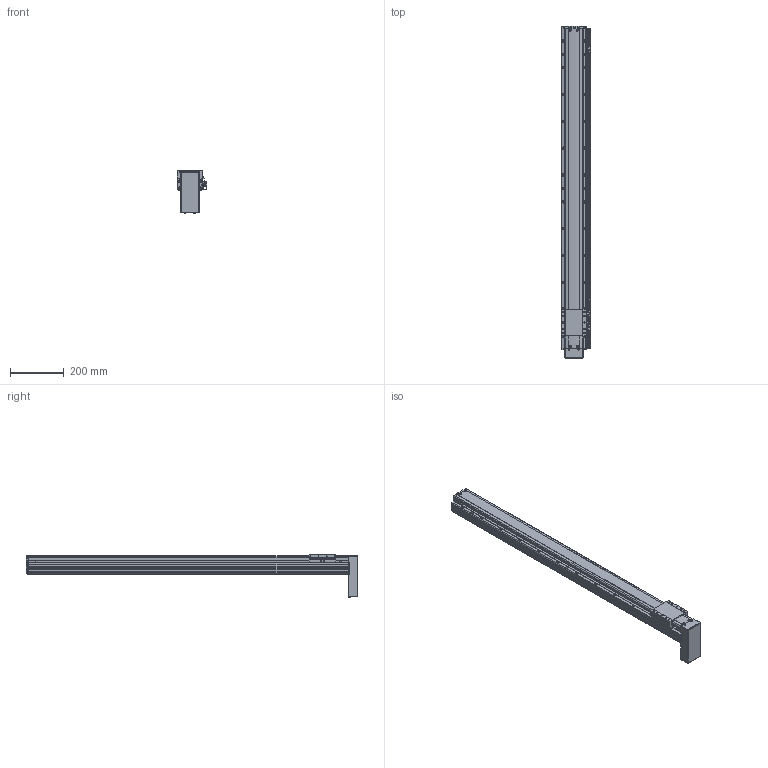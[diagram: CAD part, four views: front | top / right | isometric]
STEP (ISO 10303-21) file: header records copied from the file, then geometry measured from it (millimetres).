
FILE_DESCRIPTION(('STEP AP214'),'1');
FILE_NAME('Z:/Web/3D/PSA95/STP/PSA95-1000 (3D)/PSA95ㅁㅁ-1000PB+3SR.stp','2014-07-03T01:11:45',(' '),(' '),'Spatial InterOp 3D',' ',' ');
FILE_SCHEMA(('automotive_design'));
Length unit declared in the file: millimetre
Products named in the file (47): BASE; RRCV; 스크루 : Round - M4.0 x 10.0; 너트 : Square - M10.0 x 220.7419; RR1500; FRCV-090; 스크루 : Round - M4.0 x 6.0; SLBL-PA90; MTPL COVER; 스크루 : Round - M3.0 x 6.0; 1; 2; EE-SX674; SBK-SX674-352; M3.0 x 6.0; SRL-16x17-380L; SGD-PA95; 스크루 : Round - M3.0 x 8.0
Bounding box: 111 x 1237.5 x 159.57 mm (x, y, z)
Volume: 6917929.9 mm3; surface area: 801324.8 mm2
Topology: 47 solids, 47 shells, 2622 faces, 6961 edges, 4459 vertices
Faces by surface type: plane 1495, cylinder 765, cone 254, sphere 70, bspline 24, torus 14
Entity records: 104946 total; most frequent: CARTESIAN_POINT 17276, DIRECTION 13952, ORIENTED_EDGE 13618, EDGE_CURVE 6809, AXIS2_PLACEMENT_3D 4689, LINE 4574, VECTOR 4574, VERTEX_POINT 4459
